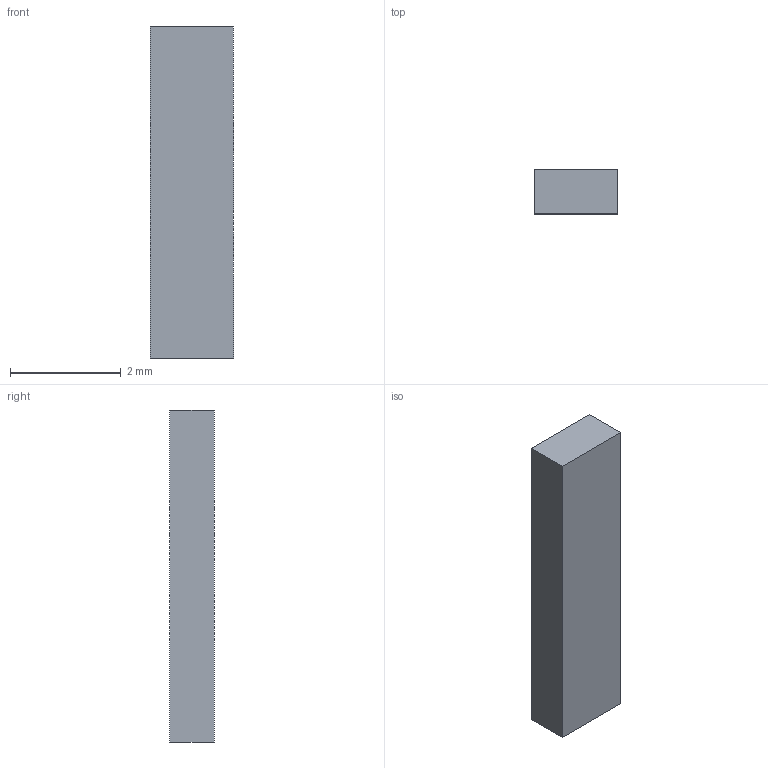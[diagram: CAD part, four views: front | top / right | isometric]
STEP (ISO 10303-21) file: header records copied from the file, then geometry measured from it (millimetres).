
FILE_DESCRIPTION(('Open CASCADE Model'),'2;1');
FILE_NAME('pcb_clamp_pad_silicone_1_0to0_8_3','2026-09-08T13:43:18',( 'Author'),('Open CASCADE'),'Open CASCADE STEP processor 7.8', 'build123d','Unknown');
FILE_SCHEMA(('AUTOMOTIVE_DESIGN { 1 0 10303 214 1 1 1 1 }'));
Length unit declared in the file: millimetre
Products named in the file (3): =>[0:1:1:2]; pcb_clamp_pad_silicone_1_0to0_8_3; SOLID
Assembly tree (2 placements, depth 3):
  =>[0:1:1:2]
    pcb_clamp_pad_silicone_1_0to0_8_3
      SOLID
Bounding box: 1.5 x 0.8 x 6 mm (x, y, z)
Volume: 7.2 mm3; surface area: 30 mm2
Topology: 1 solids, 1 shells, 6 faces, 12 edges, 8 vertices
Faces by surface type: plane 6
Entity records: 358 total; most frequent: DIRECTION 54, CARTESIAN_POINT 53, LINE 36, VECTOR 36, ORIENTED_EDGE 24, PCURVE 24, DEFINITIONAL_REPRESENTATION 24, EDGE_CURVE 12
